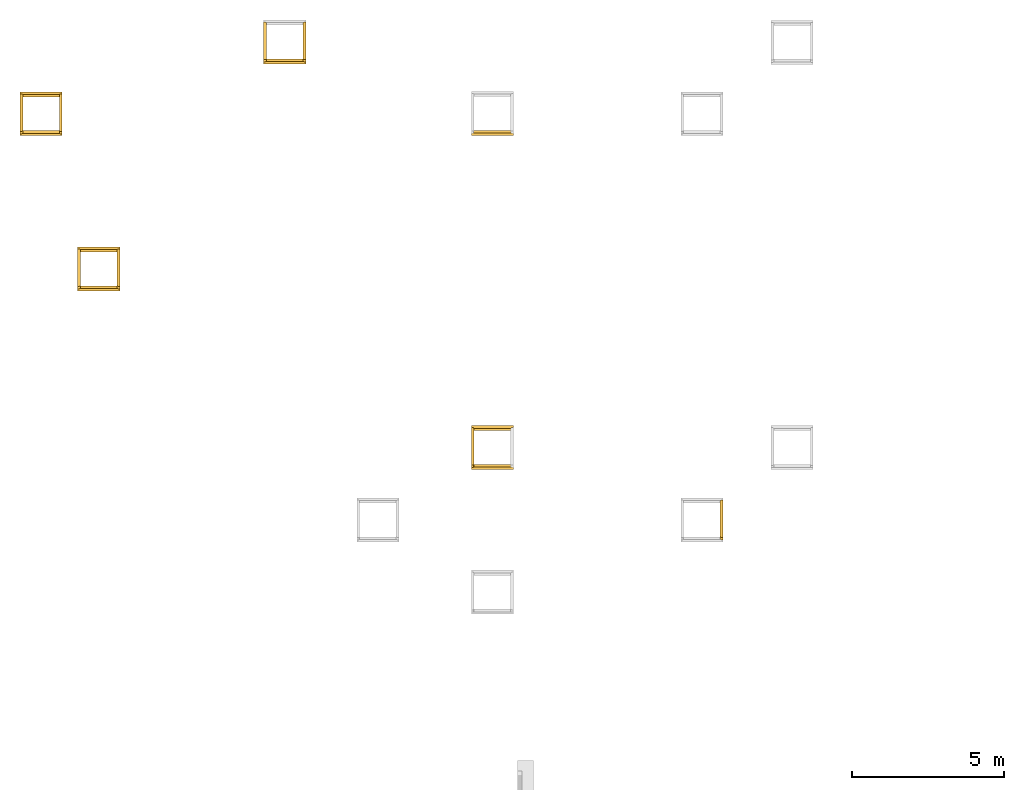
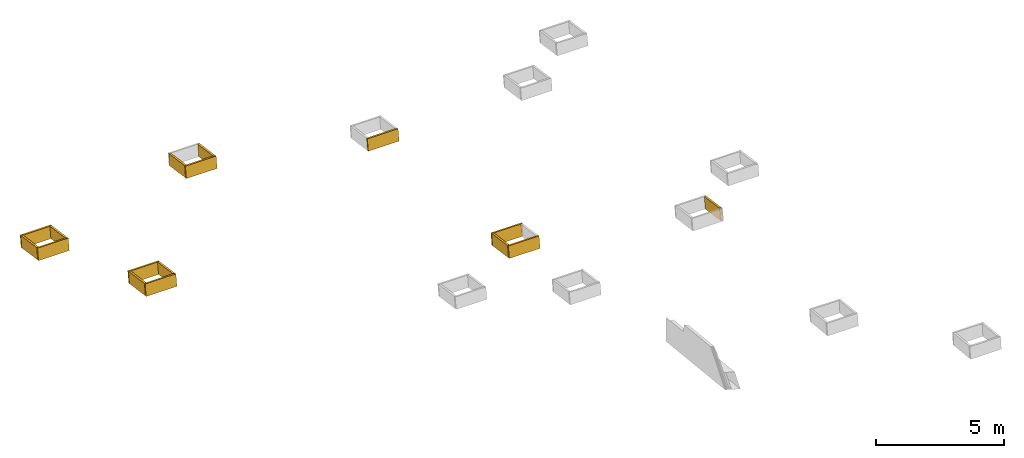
# One storey, part 20 of 23: 16 coverings.
"""IFC2X3 building model written with IfcOpenShell, lengths in millimetres."""

from ifc_helpers import new_model, entity, si_unit, converted_unit, derived_unit, money_unit, direction, frame, origin_with_axes, place, context, subcontext, project, spatial, faceted_brep, material, material_list, type_object, element, save


model = new_model("IFC2X3")

# Units and contexts
model_context = context("Model", 3, precision=0.01, world=origin_with_axes(), true_north=direction((0.0, 1.0)))
body_context = subcontext(model_context, "Body", "Model", "MODEL_VIEW")
ifc_project = project(units=[si_unit("LENGTHUNIT", "METRE", prefix="MILLI"), si_unit("AREAUNIT", "SQUARE_METRE"), si_unit("VOLUMEUNIT", "CUBIC_METRE"), converted_unit("PLANEANGLEUNIT", "DEGREE", entity("IfcPlaneAngleMeasure", 0.0174532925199), si_unit("PLANEANGLEUNIT", "RADIAN"), dimensions=[0, 0, 0, 0, 0, 0, 0]), si_unit("SOLIDANGLEUNIT", "STERADIAN"), money_unit("EUR"), converted_unit("TIMEUNIT", "Year", entity("IfcTimeMeasure", 31556926.0), si_unit("TIMEUNIT", "SECOND"), dimensions=[0, 0, 1, 0, 0, 0, 0]), si_unit("MASSUNIT", "GRAM", prefix="KILO"), si_unit("THERMODYNAMICTEMPERATUREUNIT", "DEGREE_CELSIUS"), si_unit("LUMINOUSINTENSITYUNIT", "LUMEN"), si_unit("ENERGYUNIT", "JOULE", prefix="MEGA"), derived_unit("THERMALCONDUCTANCEUNIT", [(si_unit("POWERUNIT", "WATT"), 1), (si_unit("LENGTHUNIT", "METRE"), -1), (si_unit("THERMODYNAMICTEMPERATUREUNIT", "KELVIN"), -1)]), derived_unit("SPECIFICHEATCAPACITYUNIT", [(si_unit("ENERGYUNIT", "JOULE"), 1), (si_unit("MASSUNIT", "GRAM", prefix="KILO"), -1), (si_unit("THERMODYNAMICTEMPERATUREUNIT", "KELVIN"), -1)]), derived_unit("MASSDENSITYUNIT", [(si_unit("MASSUNIT", "GRAM", prefix="KILO"), 1), (si_unit("VOLUMEUNIT", "CUBIC_METRE"), -1)])], contexts=[model_context])

# Site, building, storey
site_placement = place(None, origin_with_axes())
site = spatial("IfcSite", under=ifc_project, at=site_placement, Name="L.Koidula tn 11b", CompositionType="ELEMENT")
building_placement = place(site_placement, origin_with_axes())
building = spatial("IfcBuilding", under=site, at=building_placement, Name="Rakvere Riigigümnaasium", CompositionType="ELEMENT")
storey_placement = place(building_placement, frame((0.0, 0.0, 7440.0), z_axis=(0.0, 0.0, 1.0), x_axis=(1.0, 0.0, 0.0)))
storey = spatial("IfcBuildingStorey", under=building, at=storey_placement, Name="3.korrus +7,44", CompositionType="ELEMENT", Elevation=7440.0)

# Coverings
ifc_material_1 = material(Name="mineraalvill+karkass")
ifc_material_2 = material(Name="SKR-02_Kipsplaat")
ifc_material_list_1 = material_list([ifc_material_1, ifc_material_2, ifc_material_2])
covering_type = type_object("IfcCoveringType", Name="SA-2xkips 91", PredefinedType="NOTDEFINED")
covering_1_placement = place(storey_placement, frame((41636.541672, 52900.1885928, -1313.32276384), z_axis=(0.0, 0.0, 1.0), x_axis=(-0.000143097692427, -0.999999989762, 0.0)))
element("IfcCovering", 1, at=covering_1_placement, inside=storey, type_object=covering_type, material=ifc_material_list_1, Name="Ava-pinnakate", PredefinedType="NOTDEFINED", context=body_context, shape_type="Brep", body=[
    faceted_brep([(-110.594555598, 25.0000009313, 675.711418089), (-110.604000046, 91.0, 675.711418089), (-33.3817879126, 91.0, 133.11988018), (-33.3723434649, 25.0000006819, 133.11988018), (1126.46138895, 91.0, 851.771893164), (1126.4708334, 25.00000006, 851.771893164), (1203.68360109, 91.0, 309.180355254), (1203.69304553, 25.0000004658, 309.180355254)], [[[0, 1, 2, 3]], [[4, 1, 0, 5]], [[1, 4, 6, 2]], [[7, 3, 2, 6]], [[5, 0, 3, 7]], [[4, 5, 7, 6]]]),
    faceted_brep([(-98.2174710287, 12.5, 677.472683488), (-98.21925975, 25.0000009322, 677.472683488), (-20.9970476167, 25.0000006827, 134.881145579), (-20.9952588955, 12.5, 134.881145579), (1114.09553755, 25.0000000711, 850.010627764), (1114.09732627, 12.5, 850.010627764), (1191.31774968, 25.0000004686, 307.419089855), (1191.31953841, 12.5, 307.419089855)], [[[0, 1, 2, 3]], [[4, 1, 0, 5]], [[1, 4, 6, 2]], [[7, 3, 2, 6]], [[5, 0, 3, 7]], [[4, 5, 7, 6]]]),
    faceted_brep([(-85.8403864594, 0.0, 679.233948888), (-85.8420887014, 12.5, 679.233961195), (-8.61837712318, 12.5, 136.642636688), (-8.61817432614, 0.0, 136.642410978), (1101.72206502, 12.5, 848.249367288), (1101.72381915, 0.0, 848.249362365), (1178.94573972, 12.5, 305.658037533), (1178.94603128, 0.0, 305.657824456)], [[[0, 1, 2, 3]], [[4, 1, 0, 5]], [[1, 4, 6, 2]], [[7, 3, 2, 6]], [[5, 0, 3, 7]], [[4, 5, 7, 6]]]),
])
ifc_material_list_2 = material_list([ifc_material_2, ifc_material_2, ifc_material_1])
covering_2_placement = place(storey_placement, frame((34754.7805384, 55277.5534586, -1571.35150503), z_axis=(0.0, 0.0, 1.0), x_axis=(-1.0, 0.0, 0.0)))
element("IfcCovering", 2, at=covering_2_placement, inside=storey, type_object=covering_type, material=ifc_material_list_2, Name="Ava-pinnakate", PredefinedType="NOTDEFINED", context=body_context, shape_type="Brep", body=[
    faceted_brep([(-12.5011488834, -8.02777028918, 56.4060540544), (-12.5029197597, -20.4030660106, 54.6447886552), (-12.51397008, -97.6252773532, 597.236326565), (-12.5121992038, -85.2499816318, 598.997591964), (1212.49706645, -20.4030660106, 54.6447886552), (1212.49885415, -8.02777028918, 56.4060540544), (1212.48591115, -97.6252773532, 597.236326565), (1212.48769885, -85.2499816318, 598.997591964)], [[[0, 1, 2, 3]], [[4, 1, 0, 5]], [[1, 4, 6, 2]], [[7, 3, 2, 6]], [[5, 0, 3, 7]], [[4, 5, 7, 6]]]),
    faceted_brep([(-25.0029198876, -20.4030660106, 54.6447886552), (-25.0046907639, -32.7783617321, 52.883523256), (-25.0157410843, -110.000573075, 595.475061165), (-25.013970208, -97.6252773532, 597.236326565), (1224.99527888, -32.7783617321, 52.883523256), (1224.99706658, -20.4030660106, 54.6447886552), (1224.98412359, -110.000573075, 595.475061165), (1224.98591129, -97.6252773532, 597.236326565)], [[[0, 1, 2, 3]], [[4, 1, 0, 5]], [[1, 4, 6, 2]], [[7, 3, 2, 6]], [[5, 0, 3, 7]], [[4, 5, 7, 6]]]),
    faceted_brep([(-91.0046914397, -32.7783617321, 52.883523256), (-91.0140416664, -98.1199231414, 43.5840419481), (-91.0250919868, -175.342134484, 586.175579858), (-91.01574176, -110.000573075, 595.475061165), (1290.98584052, -98.1199231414, 43.5840419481), (1290.99527957, -32.7783617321, 52.883523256), (1290.97468522, -175.342134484, 586.175579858), (1290.98412427, -110.000573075, 595.475061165)], [[[0, 1, 2, 3]], [[4, 1, 0, 5]], [[1, 4, 6, 2]], [[7, 3, 2, 6]], [[5, 0, 3, 7]], [[4, 5, 7, 6]]]),
])
covering_3_placement = place(storey_placement, frame((33554.6082647, 54085.088425, -1436.7711891), z_axis=(0.0, 0.0, 1.0), x_axis=(1.0, 0.0, 0.0)))
element("IfcCovering", 3, at=covering_3_placement, inside=storey, type_object=covering_type, material=ifc_material_list_2, Name="Ava-pinnakate", PredefinedType="NOTDEFINED", context=body_context, shape_type="Brep", body=[
    faceted_brep([(1212.50171405, 0.553314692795, 92.6024170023), (1212.50348493, 12.9286104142, 90.8411516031), (1212.51453525, 90.1508217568, 633.432689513), (1212.51276437, 77.7755260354, 635.193954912), (-12.4981325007, 12.9286104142, 90.8411516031), (-12.4999202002, 0.553314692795, 92.6024170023), (-12.4869772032, 90.1508217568, 633.432689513), (-12.4887649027, 77.7755260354, 635.193954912)], [[[0, 1, 2, 3]], [[4, 1, 0, 5]], [[1, 4, 6, 2]], [[7, 3, 2, 6]], [[5, 0, 3, 7]], [[4, 5, 7, 6]]]),
    faceted_brep([(1224.9999433, -11.8219810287, 94.3636824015), (1225.00171418, 0.553314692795, 92.6024170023), (1225.0127645, 77.7755260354, 635.193954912), (1225.01099362, 65.4002303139, 636.955220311), (-24.9999203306, 0.553314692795, 92.6024170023), (-25.0017080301, -11.8219810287, 94.3636824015), (-24.9887650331, 77.7755260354, 635.193954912), (-24.9905527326, 65.4002303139, 636.955220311)], [[[0, 1, 2, 3]], [[4, 1, 0, 5]], [[1, 4, 6, 2]], [[7, 3, 2, 6]], [[5, 0, 3, 7]], [[4, 5, 7, 6]]]),
    faceted_brep([(1290.99059375, -77.163542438, 103.663163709), (1290.99994398, -11.8219810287, 94.3636824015), (1291.0109943, 65.4002303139, 636.955220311), (1291.00164407, 0.0586689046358, 646.254701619), (-91.0017087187, -11.8219810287, 94.3636824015), (-91.0111477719, -77.163542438, 103.663163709), (-90.9905534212, 65.4002303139, 636.955220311), (-90.9999924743, 0.0586689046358, 646.254701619)], [[[0, 1, 2, 3]], [[4, 1, 0, 5]], [[1, 4, 6, 2]], [[7, 3, 2, 6]], [[5, 0, 3, 7]], [[4, 5, 7, 6]]]),
])
covering_4_placement = place(storey_placement, frame((33554.7805247, 55277.5534586, -1647.43946758), z_axis=(0.0, 0.0, 1.0), x_axis=(-0.000144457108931, -0.999999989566, 0.0)))
element("IfcCovering", 4, at=covering_4_placement, inside=storey, type_object=covering_type, material=ifc_material_list_2, Name="Ava-pinnakate", PredefinedType="NOTDEFINED", context=body_context, shape_type="Brep", body=[
    faceted_brep([(1179.53643546, -1.00580876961e-06, 301.509430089), (-8.02777037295, 4.43236558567e-08, 132.494016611), (-85.2499825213, 4.70670613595e-07, 675.085554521), (1102.31422332, 7.49622586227e-09, 844.100967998), (-8.02596465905, -12.5, 132.494016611), (1179.53824118, -12.5, 301.509430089), (-85.2481768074, -12.5, 675.085554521), (1102.31602903, -12.5, 844.100967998)], [[[0, 1, 2, 3]], [[4, 1, 0, 5]], [[1, 4, 6, 2]], [[7, 3, 2, 6]], [[5, 0, 3, 7]], [[4, 5, 7, 6]]]),
    faceted_brep([(1191.91353703, -12.5, 303.270695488), (-20.4012605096, -12.5, 130.732751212), (-97.623472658, -12.5, 673.324289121), (1114.69132488, -12.5, 845.862233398), (-20.3994547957, -25.0000005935, 130.732751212), (1191.91534274, -24.999998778, 303.270695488), (-97.6216669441, -24.9999999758, 673.324289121), (1114.69313059, -24.9999999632, 845.862233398)], [[[0, 1, 2, 3]], [[4, 1, 0, 5]], [[1, 4, 6, 2]], [[7, 3, 2, 6]], [[5, 0, 3, 7]], [[4, 5, 7, 6]]]),
    faceted_brep([(1204.29063859, -24.999998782, 305.031960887), (-32.7747506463, -25.0000005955, 128.971485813), (-109.996962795, -24.9999999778, 671.563023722), (1127.06842645, -24.9999999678, 847.623498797), (-32.7652164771, -91.0, 128.971485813), (1204.30017276, -91.0, 305.031960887), (-109.987428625, -91.0, 671.563023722), (1127.07796061, -91.0, 847.623498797)], [[[0, 1, 2, 3]], [[4, 1, 0, 5]], [[1, 4, 6, 2]], [[7, 3, 2, 6]], [[5, 0, 3, 7]], [[4, 5, 7, 6]]]),
])
covering_5_placement = place(storey_placement, frame((21821.9724462, 61151.1926837, -2396.91447766), z_axis=(0.0, 0.0, 1.0), x_axis=(-1.0, 0.0, 0.0)))
element("IfcCovering", 5, at=covering_5_placement, inside=storey, type_object=covering_type, material=ifc_material_list_2, Name="Ava-pinnakate", PredefinedType="NOTDEFINED", context=body_context, shape_type="Brep", body=[
    faceted_brep([(-12.5009416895, -6.5798510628, 46.2324432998), (-12.5027125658, -18.9551467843, 44.4711779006), (-12.5137628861, -96.1773581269, 587.06271581), (-12.5119920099, -83.8020624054, 588.823981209), (1212.49727561, -18.9551467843, 44.4711779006), (1212.49906331, -6.5798510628, 46.2324432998), (1212.48612032, -96.1773581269, 587.06271581), (1212.48790802, -83.8020624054, 588.823981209)], [[[0, 1, 2, 3]], [[4, 1, 0, 5]], [[1, 4, 6, 2]], [[7, 3, 2, 6]], [[5, 0, 3, 7]], [[4, 5, 7, 6]]]),
    faceted_brep([(-25.0027126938, -18.9551467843, 44.4711779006), (-25.00448357, -31.3304425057, 42.7099125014), (-25.0155338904, -108.552653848, 585.301450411), (-25.0137630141, -96.1773581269, 587.06271581), (1224.99548805, -31.3304425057, 42.7099125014), (1224.99727574, -18.9551467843, 44.4711779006), (1224.98433275, -108.552653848, 585.301450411), (1224.98612045, -96.1773581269, 587.06271581)], [[[0, 1, 2, 3]], [[4, 1, 0, 5]], [[1, 4, 6, 2]], [[7, 3, 2, 6]], [[5, 0, 3, 7]], [[4, 5, 7, 6]]]),
    faceted_brep([(-91.0044842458, -31.3304425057, 42.7099125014), (-91.0138344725, -96.672003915, 33.4104311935), (-91.0248847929, -173.894215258, 576.001969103), (-91.0155345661, -108.552653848, 585.301450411), (1290.98604968, -96.672003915, 33.4104311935), (1290.99548873, -31.3304425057, 42.7099125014), (1290.97489438, -173.894215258, 576.001969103), (1290.98433344, -108.552653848, 585.301450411)], [[[0, 1, 2, 3]], [[4, 1, 0, 5]], [[1, 4, 6, 2]], [[7, 3, 2, 6]], [[5, 0, 3, 7]], [[4, 5, 7, 6]]]),
])
covering_6_placement = place(storey_placement, frame((20621.8001725, 59958.7276501, -2262.33416173), z_axis=(0.0, 0.0, 1.0), x_axis=(1.0, 0.0, 0.0)))
element("IfcCovering", 6, at=covering_6_placement, inside=storey, type_object=covering_type, material=ifc_material_list_2, Name="Ava-pinnakate", PredefinedType="NOTDEFINED", context=body_context, shape_type="Brep", body=[
    faceted_brep([(1212.50150686, -0.894604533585, 82.4288062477), (1212.50327773, 11.4806910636, 80.6675408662), (1212.51432805, 88.7029015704, 623.259078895), (1212.51255718, 76.327606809, 625.020344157), (-12.498341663, 11.4806910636, 80.6675408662), (-12.5001293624, -0.894604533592, 82.4288062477), (-12.4871863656, 88.7029015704, 623.259078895), (-12.4889740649, 76.327606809, 625.020344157)], [[[0, 1, 2, 3]], [[4, 1, 0, 5]], [[1, 4, 6, 2]], [[7, 3, 2, 6]], [[5, 0, 3, 7]], [[4, 5, 7, 6]]]),
    faceted_brep([(1224.99973658, -13.269900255, 84.1900716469), (1225.00150746, -0.894604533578, 82.4288062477), (1225.01255732, 76.3276068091, 625.020344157), (1225.01078644, 63.9523110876, 626.781609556), (-25.0001283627, -0.894604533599, 82.4288062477), (-25.0019160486, -13.2699002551, 84.1900716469), (-24.9889742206, 76.3276068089, 625.020344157), (-24.9907619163, 63.9523110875, 626.781609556)], [[[0, 1, 2, 3]], [[4, 1, 0, 5]], [[1, 4, 6, 2]], [[7, 3, 2, 6]], [[5, 0, 3, 7]], [[4, 5, 7, 6]]]),
    faceted_brep([(1290.99038587, -78.6114611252, 93.4895528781), (1290.9997361, -13.269900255, 84.1900716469), (1291.01078642, 63.9523110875, 626.781609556), (1291.00276729, 7.91280423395, 634.757212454), (1291.00140923, -1.57766238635, 634.757212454), (-91.0019178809, -13.269900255, 84.1900716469), (-91.0113569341, -78.6114611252, 93.4895528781), (-90.9907625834, 63.9523110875, 626.781609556), (1200.00163475, 7.91280423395, 634.757212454), (-90.9988578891, 7.91280423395, 634.757212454), (0.0, 7.91280423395, 634.757212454), (0.0, -1.38924665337, 636.081090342), (1200.00163475, -1.38924665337, 636.081090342), (1200.00163475, -1.57766238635, 634.757212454), (0.0, -1.57766238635, 634.757212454), (-91.0002288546, -1.57766238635, 634.757212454)], [[[0, 1, 2, 3, 4]], [[5, 1, 0, 6]], [[1, 5, 7, 2]], [[8, 3, 2, 7, 9, 10, 11, 12]], [[4, 3, 8, 13]], [[6, 0, 4, 13, 12, 11, 14, 15]], [[5, 6, 15, 9, 7]], [[14, 10, 9, 15]], [[14, 11, 10]], [[13, 8, 12]]]),
])
covering_7_placement = place(storey_placement, frame((20621.9724325, 61151.1926837, -2473.00244021), z_axis=(0.0, 0.0, 1.0), x_axis=(-0.000144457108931, -0.999999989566, 0.0)))
element("IfcCovering", 7, at=covering_7_placement, inside=storey, type_object=covering_type, material=ifc_material_list_2, Name="Ava-pinnakate", PredefinedType="NOTDEFINED", context=body_context, shape_type="Brep", body=[
    faceted_brep([(1180.98435483, -1.03214148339e-06, 291.335819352), (-6.57985113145, -4.51407800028e-08, 122.320405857), (-83.8020632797, -5.74878811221e-07, 664.911943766), (1103.76214352, -6.81161793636e-08, 833.92735738), (-6.57804541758, -12.5, 122.320405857), (1180.98616054, -12.5, 291.335819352), (-83.8002575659, -12.5, 664.911943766), (1103.76394923, -12.5, 833.92735738)], [[[0, 1, 2, 3]], [[4, 1, 0, 5]], [[1, 4, 6, 2]], [[7, 3, 2, 6]], [[5, 0, 3, 7]], [[4, 5, 7, 6]]]),
    faceted_brep([(1193.36145627, -12.5, 293.097084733), (-18.9533412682, -12.5, 120.559140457), (-96.1755534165, -12.5, 663.150678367), (1116.13924412, -12.5, 835.688622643), (-18.9515355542, -25.0000006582, 120.559140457), (1193.36326198, -24.9999987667, 293.097084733), (-96.1737477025, -25.0000006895, 663.150678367), (1116.14104984, -25.0000000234, 835.688622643)], [[[0, 1, 2, 3]], [[4, 1, 0, 5]], [[1, 4, 6, 2]], [[7, 3, 2, 6]], [[5, 0, 3, 7]], [[4, 5, 7, 6]]]),
    faceted_brep([(1205.73855783, -24.9999987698, 294.858350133), (-31.3268314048, -25.0000006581, 118.797875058), (-108.549043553, -25.0000006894, 661.389412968), (1128.51634569, -25.0000000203, 837.449888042), (-31.3172972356, -91.0, 118.797875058), (1205.748092, -91.0, 294.858350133), (-108.539509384, -91.0, 661.389412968), (1128.52587986, -91.0, 837.449888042)], [[[0, 1, 2, 3]], [[4, 1, 0, 5]], [[1, 4, 6, 2]], [[7, 3, 2, 6]], [[5, 0, 3, 7]], [[4, 5, 7, 6]]]),
])
covering_8_placement = place(storey_placement, frame((21821.9724462, 61151.1926837, -2473.00244021), z_axis=(0.0, 0.0, 1.0), x_axis=(-0.000143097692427, -0.999999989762, 0.0)))
element("IfcCovering", 8, at=covering_8_placement, inside=storey, type_object=covering_type, material=ifc_material_list_1, Name="Ava-pinnakate", PredefinedType="NOTDEFINED", context=body_context, shape_type="Brep", body=[
    faceted_brep([(1205.72192428, 90.9999993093, 294.858350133), (-31.3434647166, 91.0, 118.797875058), (-108.56567685, 91.0, 661.389412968), (1128.49971215, 90.9999993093, 837.449888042), (-31.3340202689, 25.0000006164, 118.797875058), (1205.73136873, 25.0000004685, 294.858350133), (-108.556232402, 25.000000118, 661.389412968), (1128.5091566, 25.0000000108, 837.449888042)], [[[0, 1, 2, 3]], [[4, 1, 0, 5]], [[1, 4, 6, 2]], [[7, 3, 2, 6]], [[5, 0, 3, 7]], [[4, 5, 7, 6]]]),
    faceted_brep([(1193.35607288, 25.0000004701, 293.097084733), (-18.9587244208, 25.0000006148, 120.559140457), (-96.1809365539, 25.0000001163, 663.150678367), (1116.13386075, 25.000000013, 835.688622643), (-18.9569356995, 12.5, 120.559140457), (1193.3578616, 12.5, 293.097084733), (-96.1791478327, 12.5, 663.150678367), (1116.13564947, 12.5, 835.688622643)], [[[0, 1, 2, 3]], [[4, 1, 0, 5]], [[1, 4, 6, 2]], [[7, 3, 2, 6]], [[5, 0, 3, 7]], [[4, 5, 7, 6]]]),
    faceted_brep([(1180.98409628, 12.5, 291.336037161), (-6.58001434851, 12.5, 122.3206372), (-83.8037259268, 12.5, 664.911961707), (1103.76038634, 12.5, 833.9273619), (-6.57985113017, 0.0, 122.320405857), (1180.9843546, 0.0, 291.335819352), (-83.8020632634, 0.0, 664.911943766), (1103.7621433, 0.0, 833.92735738)], [[[0, 1, 2, 3]], [[4, 1, 0, 5]], [[1, 4, 6, 2]], [[7, 3, 2, 6]], [[5, 0, 3, 7]], [[4, 5, 7, 6]]]),
])
covering_9_placement = place(storey_placement, frame((19925.1566603, 66248.5559132, -3113.23421519), z_axis=(0.0, 0.0, 1.0), x_axis=(-1.0, 0.0, 0.0)))
element("IfcCovering", 9, at=covering_9_placement, inside=storey, type_object=covering_type, material=ifc_material_list_2, Name="Ava-pinnakate", PredefinedType="NOTDEFINED", context=body_context, shape_type="Brep", body=[
    faceted_brep([(-12.5007591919, -5.30451568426, 37.2714698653), (-12.5025300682, -17.6798114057, 35.5102044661), (-12.5135803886, -94.9020227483, 578.101742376), (-12.5118095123, -82.5267270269, 579.863007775), (1212.49745985, -17.6798114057, 35.5102044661), (1212.49924755, -5.30451568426, 37.2714698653), (1212.48630455, -94.9020227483, 578.101742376), (1212.48809225, -82.5267270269, 579.863007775)], [[[0, 1, 2, 3]], [[4, 1, 0, 5]], [[1, 4, 6, 2]], [[7, 3, 2, 6]], [[5, 0, 3, 7]], [[4, 5, 7, 6]]]),
    faceted_brep([(-25.0025301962, -17.6798114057, 35.5102044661), (-25.0043010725, -30.0551071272, 33.7489390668), (-25.0153513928, -107.27731847, 576.340476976), (-25.0135805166, -94.9020227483, 578.101742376), (1224.99567228, -30.0551071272, 33.7489390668), (1224.99745998, -17.6798114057, 35.5102044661), (1224.98451698, -107.27731847, 576.340476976), (1224.98630468, -94.9020227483, 578.101742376)], [[[0, 1, 2, 3]], [[4, 1, 0, 5]], [[1, 4, 6, 2]], [[7, 3, 2, 6]], [[5, 0, 3, 7]], [[4, 5, 7, 6]]]),
    faceted_brep([(-91.0043017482, -30.0551071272, 33.7489390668), (-91.013651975, -95.3966685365, 24.449457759), (-91.0247022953, -172.618879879, 567.040995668), (-91.0153520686, -107.27731847, 576.340476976), (1290.98623391, -95.3966685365, 24.449457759), (1290.99567297, -30.0551071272, 33.7489390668), (1290.97507861, -172.618879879, 567.040995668), (1290.98451767, -107.27731847, 576.340476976)], [[[0, 1, 2, 3]], [[4, 1, 0, 5]], [[1, 4, 6, 2]], [[7, 3, 2, 6]], [[5, 0, 3, 7]], [[4, 5, 7, 6]]]),
])
covering_10_placement = place(storey_placement, frame((18724.9843865, 65056.0908796, -2978.65389926), z_axis=(0.0, 0.0, 1.0), x_axis=(1.0, 0.0, 0.0)))
element("IfcCovering", 10, at=covering_10_placement, inside=storey, type_object=covering_type, material=ifc_material_list_2, Name="Ava-pinnakate", PredefinedType="NOTDEFINED", context=body_context, shape_type="Brep", body=[
    faceted_brep([(1212.50132436, -2.16993991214, 73.4678328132), (1212.50309524, 10.2053556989, 71.7065674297), (1212.51414556, 87.4275662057, 614.298105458), (1212.51237468, 75.0522714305, 616.059370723), (-12.4985258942, 10.2053556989, 71.7065674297), (-12.5003135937, -2.16993991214, 73.4678328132), (-12.4873705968, 87.4275662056, 614.298105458), (-12.4891582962, 75.0522714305, 616.059370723)], [[[0, 1, 2, 3]], [[4, 1, 0, 5]], [[1, 4, 6, 2]], [[7, 3, 2, 6]], [[5, 0, 3, 7]], [[4, 5, 7, 6]]]),
    faceted_brep([(1224.99955409, -14.5452356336, 75.2290982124), (1225.00132497, -2.16993991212, 73.4678328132), (1225.01237483, 75.0522714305, 616.059370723), (1225.01060395, 62.6769757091, 617.820636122), (-25.0003125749, -2.16993991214, 73.4678328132), (-25.0021002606, -14.5452356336, 75.2290982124), (-24.9891584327, 75.0522714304, 616.059370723), (-24.9909461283, 62.676975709, 617.820636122)], [[[0, 1, 2, 3]], [[4, 1, 0, 5]], [[1, 4, 6, 2]], [[7, 3, 2, 6]], [[5, 0, 3, 7]], [[4, 5, 7, 6]]]),
    faceted_brep([(1290.99020333, -79.8867965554, 84.5285794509), (1290.99955355, -14.5452356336, 75.2290982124), (1291.01060386, 62.676975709, 617.820636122), (1291.00125364, -2.6645820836, 627.120116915), (-91.0021021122, -14.5452356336, 75.2290982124), (-91.0115411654, -79.8867965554, 84.5285794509), (-90.9909468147, 62.676975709, 617.820636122), (-91.0003858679, -2.6645820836, 627.120116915)], [[[0, 1, 2, 3]], [[4, 1, 0, 5]], [[1, 4, 6, 2]], [[7, 3, 2, 6]], [[5, 0, 3, 7]], [[4, 5, 7, 6]]]),
])
covering_11_placement = place(storey_placement, frame((18725.1566466, 66248.5559132, -3189.32217774), z_axis=(0.0, 0.0, 1.0), x_axis=(-0.000144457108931, -0.999999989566, 0.0)))
element("IfcCovering", 11, at=covering_11_placement, inside=storey, type_object=covering_type, material=ifc_material_list_2, Name="Ava-pinnakate", PredefinedType="NOTDEFINED", context=body_context, shape_type="Brep", body=[
    faceted_brep([(1182.25969021, -1.04805764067e-06, 282.374845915), (-5.30451573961, -3.63868934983e-08, 113.359432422), (-82.5267278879, -5.66128477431e-07, 655.950970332), (1105.0374789, -8.40358893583e-08, 824.966383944), (-5.30271002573, -12.5, 113.359432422), (1182.26149592, -12.5, 282.374845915), (-82.5249221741, -12.5, 655.950970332), (1105.03928461, -12.5, 824.966383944)], [[[0, 1, 2, 3]], [[4, 1, 0, 5]], [[1, 4, 6, 2]], [[7, 3, 2, 6]], [[5, 0, 3, 7]], [[4, 5, 7, 6]]]),
    faceted_brep([(1194.63679166, -12.5, 284.136111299), (-17.6780058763, -12.5, 111.598167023), (-94.9002180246, -12.5, 654.189704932), (1117.41457951, -12.5, 826.727649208), (-17.6762001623, -25.0000006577, 111.598167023), (1194.63859738, -24.9999987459, 284.136111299), (-94.8984123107, -25.000000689, 654.189704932), (1117.41638523, -25.0000000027, 826.727649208)], [[[0, 1, 2, 3]], [[4, 1, 0, 5]], [[1, 4, 6, 2]], [[7, 3, 2, 6]], [[5, 0, 3, 7]], [[4, 5, 7, 6]]]),
    faceted_brep([(1207.01389323, -24.9999987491, 285.897376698), (-30.0514960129, -25.0000006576, 109.836901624), (-107.273708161, -25.0000006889, 652.428439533), (1129.79168108, -24.9999999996, 828.488914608), (-30.0419618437, -91.0, 109.836901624), (1207.0234274, -91.0, 285.897376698), (-107.264173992, -91.0, 652.428439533), (1129.80121525, -91.0, 828.488914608)], [[[0, 1, 2, 3]], [[4, 1, 0, 5]], [[1, 4, 6, 2]], [[7, 3, 2, 6]], [[5, 0, 3, 7]], [[4, 5, 7, 6]]]),
])
covering_12_placement = place(storey_placement, frame((19925.1566603, 66248.5559132, -3189.32217774), z_axis=(0.0, 0.0, 1.0), x_axis=(-0.000143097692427, -0.999999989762, 0.0)))
element("IfcCovering", 12, at=covering_12_placement, inside=storey, type_object=covering_type, material=ifc_material_list_1, Name="Ava-pinnakate", PredefinedType="NOTDEFINED", context=body_context, shape_type="Brep", body=[
    faceted_brep([(1206.99725967, 90.999999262, 285.897376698), (-30.068129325, 91.0, 109.836901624), (-107.290341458, 91.0, 652.428439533), (1129.77504754, 90.9999992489, 828.488914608), (-30.0586848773, 25.0000006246, 109.836901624), (1207.00670412, 25.000000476, 285.897376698), (-107.28089701, 25.0000001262, 652.428439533), (1129.78449199, 25.0000000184, 828.488914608)], [[[0, 1, 2, 3]], [[4, 1, 0, 5]], [[1, 4, 6, 2]], [[7, 3, 2, 6]], [[5, 0, 3, 7]], [[4, 5, 7, 6]]]),
    faceted_brep([(1194.63140827, 25.0000004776, 284.136111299), (-17.6833890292, 25.000000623, 111.598167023), (-94.9056011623, 25.0000001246, 654.189704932), (1117.40919614, 25.0000000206, 826.727649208), (-17.6816003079, 12.5, 111.598167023), (1194.63319699, 12.5, 284.136111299), (-94.9038124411, 12.5, 654.189704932), (1117.41098486, 12.5, 826.727649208)], [[[0, 1, 2, 3]], [[4, 1, 0, 5]], [[1, 4, 6, 2]], [[7, 3, 2, 6]], [[5, 0, 3, 7]], [[4, 5, 7, 6]]]),
    faceted_brep([(1182.25945641, 12.5, 282.375067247), (-5.30465419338, 12.5, 113.35966729), (-82.5283657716, 12.5, 655.950991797), (1105.03574647, 12.5, 824.966391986), (-5.30451573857, 0.0, 113.359432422), (1182.25968998, 0.0, 282.374845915), (-82.5267278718, 0.0, 655.950970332), (1105.03747868, 0.0, 824.966383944)], [[[0, 1, 2, 3]], [[4, 1, 0, 5]], [[1, 4, 6, 2]], [[7, 3, 2, 6]], [[5, 0, 3, 7]], [[4, 5, 7, 6]]]),
])
covering_13_placement = place(storey_placement, frame((26733.0967917, 67414.6094434, -3311.17170811), z_axis=(0.0, 0.0, 1.0), x_axis=(1.0, 0.0, 0.0)))
element("IfcCovering", 13, at=covering_13_placement, inside=storey, type_object=covering_type, material=ifc_material_list_2, Name="Ava-pinnakate", PredefinedType="NOTDEFINED", context=body_context, shape_type="Brep", body=[
    faceted_brep([(1212.5012615, -2.60922399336, 70.3812619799), (1212.50303238, 9.76607162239, 68.6199965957), (1212.5140827, 86.9882821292, 611.211534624), (1212.51231182, 74.6129873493, 612.972799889), (-12.4985893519, 9.76607162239, 68.6199965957), (-12.5003770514, -2.60922399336, 70.3812619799), (-12.4874340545, 86.9882821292, 611.211534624), (-12.4892217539, 74.6129873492, 612.972799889)], [[[0, 1, 2, 3]], [[4, 1, 0, 5]], [[1, 4, 6, 2]], [[7, 3, 2, 6]], [[5, 0, 3, 7]], [[4, 5, 7, 6]]]),
    faceted_brep([(1224.99949123, -14.9845197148, 72.1425273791), (1225.00126211, -2.60922399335, 70.3812619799), (1225.01231197, 74.6129873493, 612.972799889), (1225.01054109, 62.2376916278, 614.734065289), (-25.000376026, -2.60922399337, 70.3812619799), (-25.0021637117, -14.9845197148, 72.1425273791), (-24.9892218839, 74.6129873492, 612.972799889), (-24.9910095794, 62.2376916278, 614.734065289)], [[[0, 1, 2, 3]], [[4, 1, 0, 5]], [[1, 4, 6, 2]], [[7, 3, 2, 6]], [[5, 0, 3, 7]], [[4, 5, 7, 6]]]),
    faceted_brep([(1290.9901405, -80.3260806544, 81.4420086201), (1290.99949072, -14.9845197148, 72.1425273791), (1291.01054104, 62.2376916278, 614.734065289), (1291.00119081, -3.10386618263, 624.033546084), (-91.0021655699, -14.9845197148, 72.1425273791), (-91.0116046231, -80.3260806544, 81.4420086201), (-90.9910102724, 62.2376916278, 614.734065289), (-91.0004493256, -3.10386618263, 624.033546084)], [[[0, 1, 2, 3]], [[4, 1, 0, 5]], [[1, 4, 6, 2]], [[7, 3, 2, 6]], [[5, 0, 3, 7]], [[4, 5, 7, 6]]]),
])
covering_14_placement = place(storey_placement, frame((26733.2690518, 68607.074477, -3521.83998659), z_axis=(0.0, 0.0, 1.0), x_axis=(-0.000144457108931, -0.999999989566, 0.0)))
element("IfcCovering", 14, at=covering_14_placement, inside=storey, type_object=covering_type, material=ifc_material_list_2, Name="Ava-pinnakate", PredefinedType="NOTDEFINED", context=body_context, shape_type="Brep", body=[
    faceted_brep([(1182.69897429, -1.05354303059e-06, 279.288275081), (-4.8652316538, -3.33777450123e-08, 110.272861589), (-82.0874438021, -5.63115776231e-07, 652.864399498), (1105.47676298, -8.95212792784e-08, 821.87981311), (-4.86342593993, -12.5, 110.272861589), (1182.70078, -12.5, 279.288275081), (-82.0856380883, -12.5, 652.864399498), (1105.47856869, -12.5, 821.87981311)], [[[0, 1, 2, 3]], [[4, 1, 0, 5]], [[1, 4, 6, 2]], [[7, 3, 2, 6]], [[5, 0, 3, 7]], [[4, 5, 7, 6]]]),
    faceted_brep([(1195.07607575, -12.5, 281.049540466), (-17.2387217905, -12.5, 108.51159619), (-94.4609339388, -12.5, 651.103134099), (1117.8538636, -12.5, 823.641078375), (-17.2369160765, -25.0000006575, 108.51159619), (1195.07788146, -24.9999987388, 281.049540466), (-94.4591282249, -25.0000006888, 651.103134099), (1117.85566931, -24.9999999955, 823.641078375)], [[[0, 1, 2, 3]], [[4, 1, 0, 5]], [[1, 4, 6, 2]], [[7, 3, 2, 6]], [[5, 0, 3, 7]], [[4, 5, 7, 6]]]),
    faceted_brep([(1207.45317731, -24.999998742, 282.810805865), (-29.6122119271, -25.0000006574, 106.75033079), (-106.834424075, -25.0000006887, 649.3418687), (1130.23096516, -24.9999999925, 825.402343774), (-29.6026777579, -91.0, 106.75033079), (1207.46271148, -91.0, 282.810805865), (-106.824889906, -91.0, 649.3418687), (1130.24049933, -91.0, 825.402343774)], [[[0, 1, 2, 3]], [[4, 1, 0, 5]], [[1, 4, 6, 2]], [[7, 3, 2, 6]], [[5, 0, 3, 7]], [[4, 5, 7, 6]]]),
])
covering_15_placement = place(storey_placement, frame((27933.2690655, 68607.074477, -3521.83998659), z_axis=(0.0, 0.0, 1.0), x_axis=(-0.000143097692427, -0.999999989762, 0.0)))
element("IfcCovering", 15, at=covering_15_placement, inside=storey, type_object=covering_type, material=ifc_material_list_1, Name="Ava-pinnakate", PredefinedType="NOTDEFINED", context=body_context, shape_type="Brep", body=[
    faceted_brep([(1207.43654376, 90.9999992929, 282.810805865), (-29.6288452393, 91.0, 106.75033079), (-106.851057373, 91.0, 649.3418687), (1130.21433163, 90.9999992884, 825.402343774), (-29.6194007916, 25.0000006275, 106.75033079), (1207.44598821, 25.0000004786, 282.810805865), (-106.841612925, 25.000000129, 649.3418687), (1130.22377607, 25.000000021, 825.402343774)], [[[0, 1, 2, 3]], [[4, 1, 0, 5]], [[1, 4, 6, 2]], [[7, 3, 2, 6]], [[5, 0, 3, 7]], [[4, 5, 7, 6]]]),
    faceted_brep([(1195.07069236, 25.0000004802, 281.049540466), (-17.2441049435, 25.0000006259, 108.51159619), (-94.4663170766, 25.0000001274, 651.103134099), (1117.84848023, 25.0000000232, 823.641078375), (-17.2423162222, 12.5, 108.51159619), (1195.07248108, 12.5, 281.049540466), (-94.4645283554, 12.5, 651.103134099), (1117.85026895, 12.5, 823.641078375)], [[[0, 1, 2, 3]], [[4, 1, 0, 5]], [[1, 4, 6, 2]], [[7, 3, 2, 6]], [[5, 0, 3, 7]], [[4, 5, 7, 6]]]),
    faceted_brep([(1182.69874902, 12.5, 279.288497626), (-4.86536157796, 12.5, 110.27309767), (-82.0890731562, 12.5, 652.864422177), (1105.47503907, 12.5, 821.879822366), (-4.86523165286, 0.0, 110.272861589), (1182.69897406, 0.0, 279.288275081), (-82.0874437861, 0.0, 652.864399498), (1105.47676276, 0.0, 821.87981311)], [[[0, 1, 2, 3]], [[4, 1, 0, 5]], [[1, 4, 6, 2]], [[7, 3, 2, 6]], [[5, 0, 3, 7]], [[4, 5, 7, 6]]]),
])
covering_16_placement = place(storey_placement, frame((33554.6082647, 65064.9831885, -2980.95369307), z_axis=(0.0, 0.0, 1.0), x_axis=(1.0, 0.0, 0.0)))
element("IfcCovering", 16, at=covering_16_placement, inside=storey, type_object=covering_type, material=ifc_material_list_2, Name="Ava-pinnakate", PredefinedType="NOTDEFINED", context=body_context, shape_type="Brep", body=[
    faceted_brep([(1212.50134501, -2.02566930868, 74.4815309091), (1212.50311588, 10.3496263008, 72.7202655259), (1212.5141662, 87.5718368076, 615.311803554), (1212.51239533, 75.196542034, 617.073068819), (-12.4985050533, 10.3496263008, 72.7202655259), (-12.5002927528, -2.02566930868, 74.4815309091), (-12.4873497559, 87.5718368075, 615.311803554), (-12.4891374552, 75.1965420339, 617.073068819)], [[[0, 1, 2, 3]], [[4, 1, 0, 5]], [[1, 4, 6, 2]], [[7, 3, 2, 6]], [[5, 0, 3, 7]], [[4, 5, 7, 6]]]),
    faceted_brep([(1224.99957473, -14.4009650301, 76.2427963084), (1225.00134561, -2.02566930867, 74.4815309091), (1225.01239547, 75.196542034, 617.073068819), (1225.0106246, 62.8212463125, 618.834334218), (-25.0002917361, -2.02566930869, 74.4815309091), (-25.0020794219, -14.4009650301, 76.2427963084), (-24.989137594, 75.1965420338, 617.073068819), (-24.9909252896, 62.8212463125, 618.834334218)], [[[0, 1, 2, 3]], [[4, 1, 0, 5]], [[1, 4, 6, 2]], [[7, 3, 2, 6]], [[5, 0, 3, 7]], [[4, 5, 7, 6]]]),
    faceted_brep([(1290.99022401, -79.7425259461, 85.542277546), (1290.99957424, -14.4009650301, 76.2427963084), (1291.01062455, 62.8212463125, 618.834334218), (1291.00127433, -2.52031147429, 628.13381501), (-91.0020812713, -14.4009650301, 76.2427963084), (-91.0115203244, -79.7425259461, 85.542277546), (-90.9909259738, 62.8212463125, 618.834334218), (-91.0003650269, -2.52031147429, 628.13381501)], [[[0, 1, 2, 3]], [[4, 1, 0, 5]], [[1, 4, 6, 2]], [[7, 3, 2, 6]], [[5, 0, 3, 7]], [[4, 5, 7, 6]]]),
])

save(model, "model.ifc")
